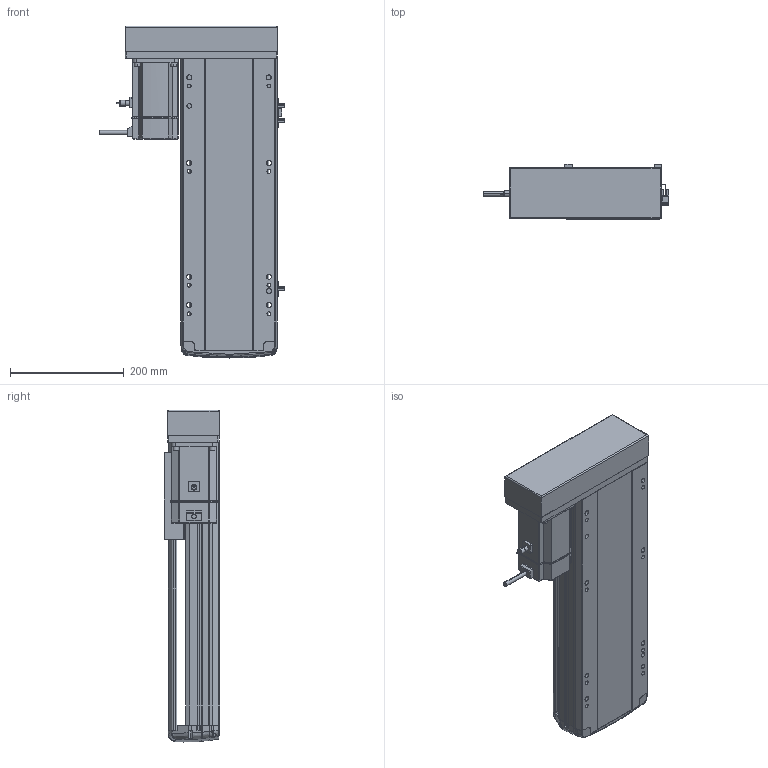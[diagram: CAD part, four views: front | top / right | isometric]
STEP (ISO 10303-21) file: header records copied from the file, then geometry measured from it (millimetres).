
FILE_DESCRIPTION (( 'STEP AP214' ), '1' );
FILE_NAME ('RTH17-XX-300-R-M75-C4.STEP', '2025-10-24T10:14:30', ( '' ), ( '' ), 'SwSTEP 2.0', 'SolidWorks 2018', '' );
FILE_SCHEMA (( 'AUTOMOTIVE_DESIGN' ));
Length unit declared in the file: millimetre
Products named in the file (10): N_RTH17-GY-001P^RTH17-XX-XX-R-M75-C4（方程式）; RTH17-XX-300-R-M75-C4; N_RTH17-E-004丝杆螺母连接座^RTH17-XX-XX-R-M75-C4（方程式）; N_OMRON EE-SX672 換覜ん^RTH17-XX-XX-R-M75-C4ㄗ源最宒ㄘ; N_RTH17-M-011底座^RTH17-XX-XX-R-M75-C4（方程式）; N_M75^RTH17-XX-XX-R-M75-C4（方程式）; N_RTH-L-012 感应片(外置)^RTH17-XX-XX-R-M75-C4（方程式）; N_RTH17-M-007上盖^RTH17-XX-XX-R-M75-C4（方程式）; N_RTH17-L-018盖子^RTH17-XX-XX-R-M75-C4（方程式）; N_RTH17-L-008-P75电机安装板左转折^RTH17-XX-XX-R-M75-C4（方程式）
Assembly tree (11 placements, depth 2):
  RTH17-XX-300-R-M75-C4
    N_RTH17-M-011底座^RTH17-XX-XX-R-M75-C4（方程式）
    N_RTH17-M-007上盖^RTH17-XX-XX-R-M75-C4（方程式）
    N_M75^RTH17-XX-XX-R-M75-C4（方程式）
    N_OMRON EE-SX672 換覜ん^RTH17-XX-XX-R-M75-C4ㄗ源最宒ㄘ  x3
    N_RTH-L-012 感应片(外置)^RTH17-XX-XX-R-M75-C4（方程式）
    N_RTH17-L-008-P75电机安装板左转折^RTH17-XX-XX-R-M75-C4（方程式）
    N_RTH17-L-018盖子^RTH17-XX-XX-R-M75-C4（方程式）
    N_RTH17-E-004丝杆螺母连接座^RTH17-XX-XX-R-M75-C4（方程式）
    N_RTH17-GY-001P^RTH17-XX-XX-R-M75-C4（方程式）
Bounding box: 326.2 x 97 x 583.07 mm (x, y, z)
Volume: 6403889.9 mm3; surface area: 807936.1 mm2
Topology: 13 solids, 15 shells, 1725 faces, 4727 edges, 3058 vertices
Faces by surface type: plane 829, cylinder 482, bspline 377, cone 28, torus 9
Entity records: 49821 total; most frequent: CARTESIAN_POINT 19987, ORIENTED_EDGE 6478, DIRECTION 5383, EDGE_CURVE 3243, VERTEX_POINT 2094, AXIS2_PLACEMENT_3D 1801, VECTOR 1781, LINE 1781
